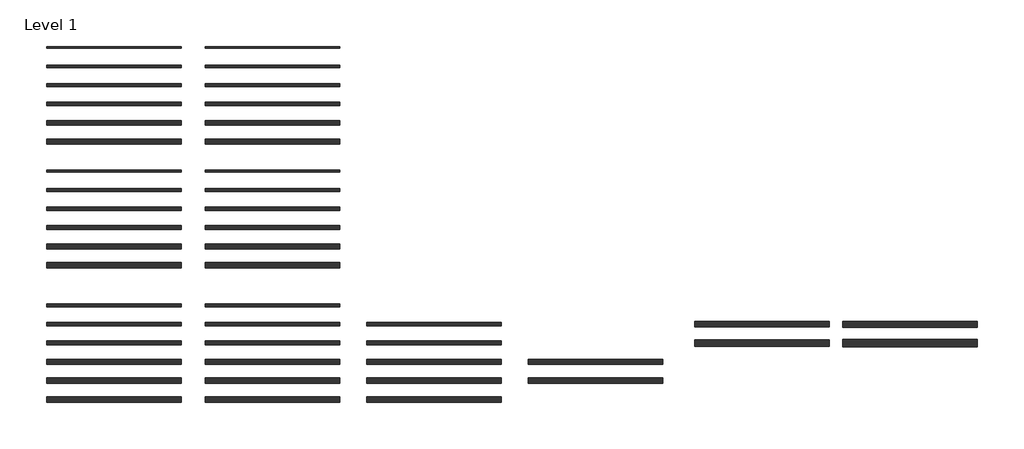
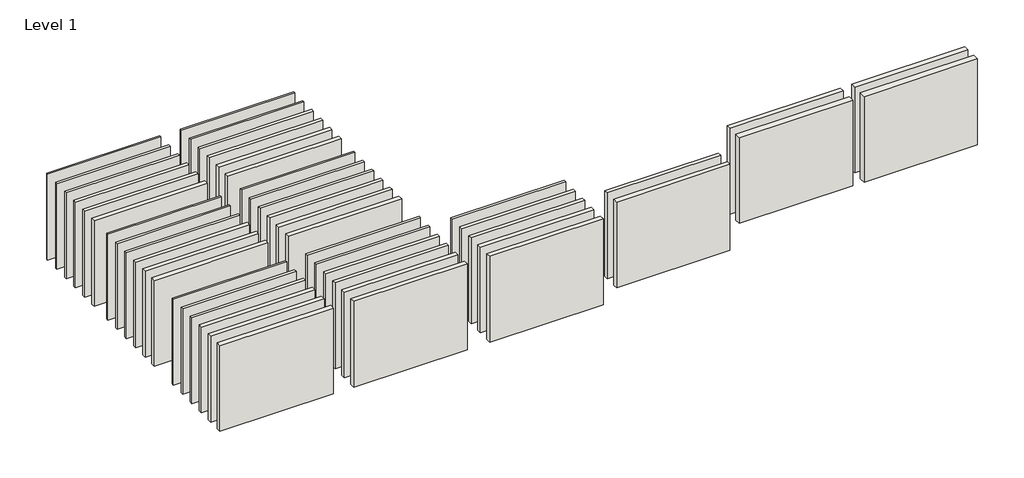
# One storey: 47 walls.
"""IFC4 building model written with IfcOpenShell, lengths in millimetres."""

import ifcopenshell
import ifcopenshell.guid

model = None  # the IFC model being written
_history = None  # IfcOwnerHistory: only IFC2X3 demands one
_inside = {}  # id of a spatial element -> (the spatial element, [elements in it])
_under = {}  # id of a project, library or spatial element -> (it, [spatial elements below it])
_declared = {}  # id of a project -> (the project, [libraries it declares])
_typed = {}  # id of a type object -> (the type object, [elements of that type])
_made_of = {}  # id of a material, layer set ... -> (it, [elements and type objects made of it])


def new_model(schema):
    """Start an empty IFC model of exactly this schema.

    Asked for "IFC4X3", IfcOpenShell would pick the latest addendum, in which some entities
    have other attributes; the version numbers below select the first issue.
    IFC2X3 requires an IfcOwnerHistory on every rooted entity: one is made here for all.
    """
    global model, _history
    if schema == "IFC4X3":
        model = ifcopenshell.file(schema_version=(4, 3, 0, 0))
    else:
        model = ifcopenshell.file(schema=schema)
    _inside.clear()
    _under.clear()
    _declared.clear()
    _typed.clear()
    _made_of.clear()
    _history = None
    if model.schema == "IFC2X3":
        org = make("IfcOrganization", Name="unknown")
        user = make(
            "IfcPersonAndOrganization",
            ThePerson=make("IfcPerson", FamilyName="unknown"),
            TheOrganization=org,
        )
        app = make(
            "IfcApplication",
            ApplicationDeveloper=org,
            Version="unknown",
            ApplicationFullName="unknown",
            ApplicationIdentifier="unknown",
        )
        _history = make(
            "IfcOwnerHistory",
            OwningUser=user,
            OwningApplication=app,
            ChangeAction="ADDED",
            CreationDate=0,
        )
    return model


def make(cls, **values):
    """One entity of the class cls with the attributes given. An attribute that is None is left unset."""
    return model.create_entity(
        cls, **{name: value for name, value in values.items() if value is not None}
    )


def rooted(cls, **values):
    """An entity with a GlobalId (a new one), such as an element, a storey or a relation."""
    return make(cls, GlobalId=ifcopenshell.guid.new(), OwnerHistory=_history, **values)


def si_unit(unit_type, name, prefix=None):
    """IfcSIUnit, for example si_unit("LENGTHUNIT", "METRE", prefix="MILLI")."""
    return make("IfcSIUnit", UnitType=unit_type, Prefix=prefix, Name=name)


def assignment(units):
    """IfcUnitAssignment: the units of a project."""
    return None if units is None else make("IfcUnitAssignment", Units=units)


def point(xyz):
    """IfcCartesianPoint."""
    return None if xyz is None else make("IfcCartesianPoint", Coordinates=xyz)


def direction(xyz):
    """IfcDirection."""
    return None if xyz is None else make("IfcDirection", DirectionRatios=xyz)


def frame(location, z_axis=None, x_axis=None):
    """IfcAxis2Placement3D, a coordinate frame: its origin and axes. An axis left out is left unset."""
    return make(
        "IfcAxis2Placement3D",
        Location=point(location),
        Axis=direction(z_axis),
        RefDirection=direction(x_axis),
    )


def origin():
    """The frame at (0, 0, 0) with its axes left unset."""
    return frame((0.0, 0.0, 0.0))


def origin_with_axes():
    """The frame at (0, 0, 0) with the z axis (0, 0, 1) and the x axis (1, 0, 0) written out."""
    return frame((0.0, 0.0, 0.0), z_axis=(0.0, 0.0, 1.0), x_axis=(1.0, 0.0, 0.0))


def place(relative_to, where):
    """IfcLocalPlacement: puts the frame where relative to a parent placement (None: the world)."""
    return make(
        "IfcLocalPlacement", PlacementRelTo=relative_to, RelativePlacement=where
    )


def context(
    kind, dimensions, precision=None, world=None, true_north=None, identifier=None
):
    """IfcGeometricRepresentationContext, for example the 3D "Model" context."""
    return make(
        "IfcGeometricRepresentationContext",
        ContextIdentifier=identifier,
        ContextType=kind,
        CoordinateSpaceDimension=dimensions,
        Precision=precision,
        WorldCoordinateSystem=world,
        TrueNorth=true_north,
    )


def project(units=None, contexts=None):
    """IfcProject with its units and contexts."""
    return rooted(
        "IfcProject",
        Name="project",
        RepresentationContexts=contexts,
        UnitsInContext=assignment(units),
    )


def spatial(cls, under=None, at=None, **own):
    """A site, building, storey or space (cls), placed at a placement, below another one or the project."""
    s = rooted(cls, ObjectPlacement=at, **own)
    if under is not None:
        _under.setdefault(under.id(), (under, []))[1].append(s)
    return s


def polyline(points):
    """IfcPolyline through the points."""
    return make("IfcPolyline", Points=[point(p) for p in points])


def outline(outer, holes=None, kind="AREA"):
    """IfcArbitraryClosedProfileDef: a profile drawn as a closed curve; with holes, ...WithVoids."""
    if holes is None:
        return make("IfcArbitraryClosedProfileDef", ProfileType=kind, OuterCurve=outer)
    return make(
        "IfcArbitraryProfileDefWithVoids",
        ProfileType=kind,
        OuterCurve=outer,
        InnerCurves=holes,
    )


def extrude(swept, where, along, depth):
    """IfcExtrudedAreaSolid: the profile swept, set in the frame where, extruded along a direction by depth."""
    return make(
        "IfcExtrudedAreaSolid",
        SweptArea=swept,
        Position=where,
        ExtrudedDirection=direction(along),
        Depth=depth,
    )


def shape(context_of_items, identifier, shape_type, items):
    """IfcShapeRepresentation: the items that make up one representation, for example the "Body"."""
    return make(
        "IfcShapeRepresentation",
        ContextOfItems=context_of_items,
        RepresentationIdentifier=identifier,
        RepresentationType=shape_type,
        Items=items,
    )


def made_of(thing, what):
    """Note that an element or type object is made of a material, layer set ...; save() writes the relation."""
    if what is not None:
        _made_of.setdefault(what.id(), (what, []))[1].append(thing)
    return thing


def element(
    cls,
    number,
    at=None,
    inside=None,
    cuts=None,
    type_object=None,
    material=None,
    context=None,
    identifier="Body",
    shape_type=None,
    held_by="IfcProductDefinitionShape",
    body=None,
    shapes=None,
    **own,
):
    """One element of the class cls, such as IfcWall. Its Tag is "e" and its number.

    at: its placement. inside: the storey or other place that contains it. cuts: it is an
    opening in that element (IfcRelVoidsElement). A single representation is given by context,
    identifier, shape_type and body (its items); several are given by shapes. held_by: the class
    of the entity that holds the representations. save() writes the other relations.
    """
    e = rooted(cls, Tag="e%d" % number, ObjectPlacement=at, **own)
    if body is not None:
        shapes = [shape(context, identifier, shape_type, body)]
    if shapes is not None:
        e.Representation = make(held_by, Representations=shapes)
    if inside is not None:
        _inside.setdefault(inside.id(), (inside, []))[1].append(e)
    if cuts is not None:
        rooted(
            "IfcRelVoidsElement", RelatingBuildingElement=cuts, RelatedOpeningElement=e
        )
    if type_object is not None:
        _typed.setdefault(type_object.id(), (type_object, []))[1].append(e)
    return made_of(e, material)


def aggregate(whole, parts):
    """IfcRelAggregates: a whole, such as a stair, and the parts it consists of."""
    return rooted("IfcRelAggregates", RelatingObject=whole, RelatedObjects=parts)


def save(model, path):
    """Write the relations noted so far, then the file.

    IfcRelAggregates (storeys below a building ...), IfcRelContainedInSpatialStructure (elements
    in a storey), IfcRelDefinesByType, IfcRelAssociatesMaterial and IfcRelDeclares: one each for
    every whole, place, type object, material and project.
    """
    for whole, parts in _under.values():
        aggregate(whole, parts)
    for where, things in _inside.values():
        rooted(
            "IfcRelContainedInSpatialStructure",
            RelatedElements=things,
            RelatingStructure=where,
        )
    for kind, things in _typed.values():
        rooted("IfcRelDefinesByType", RelatedObjects=things, RelatingType=kind)
    for what, things in _made_of.values():
        rooted("IfcRelAssociatesMaterial", RelatedObjects=things, RelatingMaterial=what)
    for by, libraries in _declared.values():
        rooted("IfcRelDeclares", RelatingContext=by, RelatedDefinitions=libraries)
    model.write(path)


model = new_model("IFC4")

# Units and contexts
model_context = context("Model", 3, world=origin())
ifc_project = project(units=[si_unit("LENGTHUNIT", "METRE", prefix="MILLI")], contexts=[model_context])

# Site, building, storey
site = spatial("IfcSite", under=ifc_project)
building = spatial("IfcBuilding", under=site)
storey = spatial("IfcBuildingStorey", under=building, Name="Level 1", Elevation=0.0)

# Walls
placement = place(None, origin())
element("IfcWall", 1, ObjectType="Knauf Danogips E MR 300 45/45 H/A M0", at=placement, inside=storey, context=model_context, shape_type="SweptSolid", body=[
    extrude(outline(polyline([(2218.7204375, 1079.3446658), (-2781.2795625, 1079.3446658), (-2781.2795625, 1149.3446658), (2218.7204375, 1149.3446658), (2218.7204375, 1079.3446658)])), origin_with_axes(), (0.0, 0.0, 1.0), 4000.0),
])
element("IfcWall", 2, ObjectType="Knauf Danogips E MR 300 70/70 H/A M0", at=placement, inside=storey, context=model_context, shape_type="SweptSolid", body=[
    extrude(outline(polyline([(2218.7204375, 366.8559755), (-2781.2795625, 366.8559755), (-2781.2795625, 461.8559755), (2218.7204375, 461.8559755), (2218.7204375, 366.8559755)])), origin_with_axes(), (0.0, 0.0, 1.0), 4000.0),
])
element("IfcWall", 3, ObjectType="Knauf Danogips E MR 300 95/95 H/A M0", at=placement, inside=storey, context=model_context, shape_type="SweptSolid", body=[
    extrude(outline(polyline([(2218.7204375, -345.6440245), (-2781.2795625, -345.6440245), (-2781.2795625, -225.6440245), (2218.7204375, -225.6440245), (2218.7204375, -345.6440245)])), origin_with_axes(), (0.0, 0.0, 1.0), 4000.0),
])
element("IfcWall", 4, ObjectType="Knauf Danogips E MR 300 120/120 H/A M0", at=placement, inside=storey, context=model_context, shape_type="SweptSolid", body=[
    extrude(outline(polyline([(2218.7204375, -1058.1440245), (-2781.2795625, -1058.1440245), (-2781.2795625, -913.1440245), (2218.7204375, -913.1440245), (2218.7204375, -1058.1440245)])), origin_with_axes(), (0.0, 0.0, 1.0), 4000.0),
])
element("IfcWall", 5, ObjectType="Knauf Danogips E MR 300 145/145 H/A M0", at=placement, inside=storey, context=model_context, shape_type="SweptSolid", body=[
    extrude(outline(polyline([(2218.7204375, -1770.6440245), (-2781.2795625, -1770.6440245), (-2781.2795625, -1600.6440245), (2218.7204375, -1600.6440245), (2218.7204375, -1770.6440245)])), origin_with_axes(), (0.0, 0.0, 1.0), 4000.0),
])
element("IfcWall", 6, ObjectType="Knauf Danogips E MR 300 160/160 H/A M0", at=placement, inside=storey, context=model_context, shape_type="SweptSolid", body=[
    extrude(outline(polyline([(2218.7204375, -2478.1440245), (-2781.2795625, -2478.1440245), (-2781.2795625, -2293.1440245), (2218.7204375, -2293.1440245), (2218.7204375, -2478.1440245)])), origin_with_axes(), (0.0, 0.0, 1.0), 4000.0),
])
element("IfcWall", 7, ObjectType="Knauf Danogips E MR 450 45/45 HH/A M0", at=placement, inside=storey, context=model_context, shape_type="SweptSolid", body=[
    extrude(outline(polyline([(2218.7204375, -3526.9053342), (-2781.2795625, -3526.9053342), (-2781.2795625, -3444.4053342), (2218.7204375, -3444.4053342), (2218.7204375, -3526.9053342)])), origin_with_axes(), (0.0, 0.0, 1.0), 4000.0),
])
element("IfcWall", 8, ObjectType="Knauf Danogips E MR 450 70/70 HH/A M0", at=placement, inside=storey, context=model_context, shape_type="SweptSolid", body=[
    extrude(outline(polyline([(2218.7204375, -4239.4053342), (-2781.2795625, -4239.4053342), (-2781.2795625, -4131.9053342), (2218.7204375, -4131.9053342), (2218.7204375, -4239.4053342)])), origin_with_axes(), (0.0, 0.0, 1.0), 4000.0),
])
element("IfcWall", 9, ObjectType="Knauf Danogips E MR 450 95/95 HH/A M0", at=placement, inside=storey, context=model_context, shape_type="SweptSolid", body=[
    extrude(outline(polyline([(2218.7204375, -4951.9053342), (-2781.2795625, -4951.9053342), (-2781.2795625, -4819.4053342), (2218.7204375, -4819.4053342), (2218.7204375, -4951.9053342)])), origin_with_axes(), (0.0, 0.0, 1.0), 4000.0),
])
element("IfcWall", 10, ObjectType="Knauf Danogips E MR 450 120/120 HH/A M0", at=placement, inside=storey, context=model_context, shape_type="SweptSolid", body=[
    extrude(outline(polyline([(2218.7204375, -5664.4053342), (-2781.2795625, -5664.4053342), (-2781.2795625, -5506.9053342), (2218.7204375, -5506.9053342), (2218.7204375, -5664.4053342)])), origin_with_axes(), (0.0, 0.0, 1.0), 4000.0),
])
element("IfcWall", 11, ObjectType="Knauf Danogips E MR 450 145/145 HH/A M0", at=placement, inside=storey, context=model_context, shape_type="SweptSolid", body=[
    extrude(outline(polyline([(2218.7204375, -6376.9053342), (-2781.2795625, -6376.9053342), (-2781.2795625, -6194.4053342), (2218.7204375, -6194.4053342), (2218.7204375, -6376.9053342)])), origin_with_axes(), (0.0, 0.0, 1.0), 4000.0),
])
element("IfcWall", 12, ObjectType="Knauf Danogips E MR 450 160/160 HH/A M0", at=placement, inside=storey, context=model_context, shape_type="SweptSolid", body=[
    extrude(outline(polyline([(2218.7204375, -7084.4053342), (-2781.2795625, -7084.4053342), (-2781.2795625, -6886.9053342), (2218.7204375, -6886.9053342), (2218.7204375, -7084.4053342)])), origin_with_axes(), (0.0, 0.0, 1.0), 4000.0),
])
element("IfcWall", 13, ObjectType="Knauf Danogips E MR 300 45/45 H/A M45", at=placement, inside=storey, context=model_context, shape_type="SweptSolid", body=[
    extrude(outline(polyline([(8118.7204375, 1079.3446658), (3118.7204375, 1079.3446658), (3118.7204375, 1149.3446658), (8118.7204375, 1149.3446658), (8118.7204375, 1079.3446658)])), origin_with_axes(), (0.0, 0.0, 1.0), 4000.0),
])
element("IfcWall", 14, ObjectType="Knauf Danogips E MR 300 70/70 H/A M45", at=placement, inside=storey, context=model_context, shape_type="SweptSolid", body=[
    extrude(outline(polyline([(8118.7204375, 366.8559755), (3118.7204375, 366.8559755), (3118.7204375, 461.8559755), (8118.7204375, 461.8559755), (8118.7204375, 366.8559755)])), origin_with_axes(), (0.0, 0.0, 1.0), 4000.0),
])
element("IfcWall", 15, ObjectType="Knauf Danogips E MR 300 95/95 H/A M45", at=placement, inside=storey, context=model_context, shape_type="SweptSolid", body=[
    extrude(outline(polyline([(8118.7204375, -345.6440245), (3118.7204375, -345.6440245), (3118.7204375, -225.6440245), (8118.7204375, -225.6440245), (8118.7204375, -345.6440245)])), origin_with_axes(), (0.0, 0.0, 1.0), 4000.0),
])
element("IfcWall", 16, ObjectType="Knauf Danogips E MR 300 120/120 H/A M45", at=placement, inside=storey, context=model_context, shape_type="SweptSolid", body=[
    extrude(outline(polyline([(8118.7204375, -1058.1440245), (3118.7204375, -1058.1440245), (3118.7204375, -913.1440245), (8118.7204375, -913.1440245), (8118.7204375, -1058.1440245)])), origin_with_axes(), (0.0, 0.0, 1.0), 4000.0),
])
element("IfcWall", 17, ObjectType="Knauf Danogips E MR 300 145/145 H/A M45", at=placement, inside=storey, context=model_context, shape_type="SweptSolid", body=[
    extrude(outline(polyline([(8118.7204375, -1770.6440245), (3118.7204375, -1770.6440245), (3118.7204375, -1600.6440245), (8118.7204375, -1600.6440245), (8118.7204375, -1770.6440245)])), origin_with_axes(), (0.0, 0.0, 1.0), 4000.0),
])
element("IfcWall", 18, ObjectType="Knauf Danogips E MR 300 160/160 H/A M45", at=placement, inside=storey, context=model_context, shape_type="SweptSolid", body=[
    extrude(outline(polyline([(8118.7204375, -2478.1440245), (3118.7204375, -2478.1440245), (3118.7204375, -2293.1440245), (8118.7204375, -2293.1440245), (8118.7204375, -2478.1440245)])), origin_with_axes(), (0.0, 0.0, 1.0), 4000.0),
])
element("IfcWall", 19, ObjectType="Knauf Danogips E MR 450 45/45 HH/A M45", at=placement, inside=storey, context=model_context, shape_type="SweptSolid", body=[
    extrude(outline(polyline([(8118.7204375, -3526.9053342), (3118.7204375, -3526.9053342), (3118.7204375, -3444.4053342), (8118.7204375, -3444.4053342), (8118.7204375, -3526.9053342)])), origin_with_axes(), (0.0, 0.0, 1.0), 4000.0),
])
element("IfcWall", 20, ObjectType="Knauf Danogips E MR 450 70/70 HH/A M45", at=placement, inside=storey, context=model_context, shape_type="SweptSolid", body=[
    extrude(outline(polyline([(8118.7204375, -4239.4053342), (3118.7204375, -4239.4053342), (3118.7204375, -4131.9053342), (8118.7204375, -4131.9053342), (8118.7204375, -4239.4053342)])), origin_with_axes(), (0.0, 0.0, 1.0), 4000.0),
])
element("IfcWall", 21, ObjectType="Knauf Danogips E MR 450 95/95 HH/A M45", at=placement, inside=storey, context=model_context, shape_type="SweptSolid", body=[
    extrude(outline(polyline([(8118.7204375, -4951.9053342), (3118.7204375, -4951.9053342), (3118.7204375, -4819.4053342), (8118.7204375, -4819.4053342), (8118.7204375, -4951.9053342)])), origin_with_axes(), (0.0, 0.0, 1.0), 4000.0),
])
element("IfcWall", 22, ObjectType="Knauf Danogips E MR 450 120/120 HH/A M45", at=placement, inside=storey, context=model_context, shape_type="SweptSolid", body=[
    extrude(outline(polyline([(8118.7204375, -5664.4053342), (3118.7204375, -5664.4053342), (3118.7204375, -5506.9053342), (8118.7204375, -5506.9053342), (8118.7204375, -5664.4053342)])), origin_with_axes(), (0.0, 0.0, 1.0), 4000.0),
])
element("IfcWall", 23, ObjectType="Knauf Danogips E MR 450 145/145 HH/A M45", at=placement, inside=storey, context=model_context, shape_type="SweptSolid", body=[
    extrude(outline(polyline([(8118.7204375, -6376.9053342), (3118.7204375, -6376.9053342), (3118.7204375, -6194.4053342), (8118.7204375, -6194.4053342), (8118.7204375, -6376.9053342)])), origin_with_axes(), (0.0, 0.0, 1.0), 4000.0),
])
element("IfcWall", 24, ObjectType="Knauf Danogips E MR 450 160/160 HH/A M45", at=placement, inside=storey, context=model_context, shape_type="SweptSolid", body=[
    extrude(outline(polyline([(8118.7204375, -7084.4053342), (3118.7204375, -7084.4053342), (3118.7204375, -6886.9053342), (8118.7204375, -6886.9053342), (8118.7204375, -7084.4053342)])), origin_with_axes(), (0.0, 0.0, 1.0), 4000.0),
])
element("IfcWall", 25, ObjectType="Knauf Danogips E MR 450 45/45 HH/AA M0", at=placement, inside=storey, context=model_context, shape_type="SweptSolid", body=[
    extrude(outline(polyline([(2218.7204375, -8533.1553342), (-2781.2795625, -8533.1553342), (-2781.2795625, -8438.1553342), (2218.7204375, -8438.1553342), (2218.7204375, -8533.1553342)])), origin_with_axes(), (0.0, 0.0, 1.0), 4000.0),
])
element("IfcWall", 26, ObjectType="Knauf Danogips E MR 450 70/70 HH/AA M0", at=placement, inside=storey, context=model_context, shape_type="SweptSolid", body=[
    extrude(outline(polyline([(2218.7204375, -9245.6553342), (-2781.2795625, -9245.6553342), (-2781.2795625, -9125.6553342), (2218.7204375, -9125.6553342), (2218.7204375, -9245.6553342)])), origin_with_axes(), (0.0, 0.0, 1.0), 4000.0),
])
element("IfcWall", 27, ObjectType="Knauf Danogips E MR 450 95/95 HH/AA M0", at=placement, inside=storey, context=model_context, shape_type="SweptSolid", body=[
    extrude(outline(polyline([(2218.7204375, -9958.1553342), (-2781.2795625, -9958.1553342), (-2781.2795625, -9813.1553342), (2218.7204375, -9813.1553342), (2218.7204375, -9958.1553342)])), origin_with_axes(), (0.0, 0.0, 1.0), 4000.0),
])
element("IfcWall", 28, ObjectType="Knauf Danogips E MR 450 120/120 HH/AA M0", at=placement, inside=storey, context=model_context, shape_type="SweptSolid", body=[
    extrude(outline(polyline([(2218.7204375, -10670.6553342), (-2781.2795625, -10670.6553342), (-2781.2795625, -10500.6553342), (2218.7204375, -10500.6553342), (2218.7204375, -10670.6553342)])), origin_with_axes(), (0.0, 0.0, 1.0), 4000.0),
])
element("IfcWall", 29, ObjectType="Knauf Danogips E MR 450 145/145 HH/AA M0", at=placement, inside=storey, context=model_context, shape_type="SweptSolid", body=[
    extrude(outline(polyline([(2218.7204375, -11383.1553342), (-2781.2795625, -11383.1553342), (-2781.2795625, -11188.1553342), (2218.7204375, -11188.1553342), (2218.7204375, -11383.1553342)])), origin_with_axes(), (0.0, 0.0, 1.0), 4000.0),
])
element("IfcWall", 30, ObjectType="Knauf Danogips E MR 450 160/160 HH/AA M0", at=placement, inside=storey, context=model_context, shape_type="SweptSolid", body=[
    extrude(outline(polyline([(2218.7204375, -12090.6553342), (-2781.2795625, -12090.6553342), (-2781.2795625, -11880.6553342), (2218.7204375, -11880.6553342), (2218.7204375, -12090.6553342)])), origin_with_axes(), (0.0, 0.0, 1.0), 4000.0),
])
element("IfcWall", 31, ObjectType="Knauf Danogips E MR 450 45/45 HH/AA M45", at=placement, inside=storey, context=model_context, shape_type="SweptSolid", body=[
    extrude(outline(polyline([(8118.7204375, -8533.1553342), (3118.7204375, -8533.1553342), (3118.7204375, -8438.1553342), (8118.7204375, -8438.1553342), (8118.7204375, -8533.1553342)])), origin_with_axes(), (0.0, 0.0, 1.0), 4000.0),
])
element("IfcWall", 32, ObjectType="Knauf Danogips E MR 450 70/70 HH/AA M45", at=placement, inside=storey, context=model_context, shape_type="SweptSolid", body=[
    extrude(outline(polyline([(8118.7204375, -9245.6553342), (3118.7204375, -9245.6553342), (3118.7204375, -9125.6553342), (8118.7204375, -9125.6553342), (8118.7204375, -9245.6553342)])), origin_with_axes(), (0.0, 0.0, 1.0), 4000.0),
])
element("IfcWall", 33, ObjectType="Knauf Danogips E MR 450 95/95 HH/AA M45", at=placement, inside=storey, context=model_context, shape_type="SweptSolid", body=[
    extrude(outline(polyline([(8118.7204375, -9958.1553342), (3118.7204375, -9958.1553342), (3118.7204375, -9813.1553342), (8118.7204375, -9813.1553342), (8118.7204375, -9958.1553342)])), origin_with_axes(), (0.0, 0.0, 1.0), 4000.0),
])
element("IfcWall", 34, ObjectType="Knauf Danogips E MR 450 120/120 HH/AA M45", at=placement, inside=storey, context=model_context, shape_type="SweptSolid", body=[
    extrude(outline(polyline([(8118.7204375, -10670.6553342), (3118.7204375, -10670.6553342), (3118.7204375, -10500.6553342), (8118.7204375, -10500.6553342), (8118.7204375, -10670.6553342)])), origin_with_axes(), (0.0, 0.0, 1.0), 4000.0),
])
element("IfcWall", 35, ObjectType="Knauf Danogips E MR 450 145/145 HH/AA M45", at=placement, inside=storey, context=model_context, shape_type="SweptSolid", body=[
    extrude(outline(polyline([(8118.7204375, -11383.1553342), (3118.7204375, -11383.1553342), (3118.7204375, -11188.1553342), (8118.7204375, -11188.1553342), (8118.7204375, -11383.1553342)])), origin_with_axes(), (0.0, 0.0, 1.0), 4000.0),
])
element("IfcWall", 36, ObjectType="Knauf Danogips E MR 450 160/160 HH/AA M45", at=placement, inside=storey, context=model_context, shape_type="SweptSolid", body=[
    extrude(outline(polyline([(8118.7204375, -12090.6553342), (3118.7204375, -12090.6553342), (3118.7204375, -11880.6553342), (8118.7204375, -11880.6553342), (8118.7204375, -12090.6553342)])), origin_with_axes(), (0.0, 0.0, 1.0), 4000.0),
])
element("IfcWall", 37, ObjectType="Knauf Danogips E MR 450 70/70 HH/AA M70", at=placement, inside=storey, context=model_context, shape_type="SweptSolid", body=[
    extrude(outline(polyline([(14118.7204375, -9245.6553342), (9118.7204375, -9245.6553342), (9118.7204375, -9125.6553342), (14118.7204375, -9125.6553342), (14118.7204375, -9245.6553342)])), origin_with_axes(), (0.0, 0.0, 1.0), 4000.0),
])
element("IfcWall", 38, ObjectType="Knauf Danogips E MR 450 95/95 HH/AA M95", at=placement, inside=storey, context=model_context, shape_type="SweptSolid", body=[
    extrude(outline(polyline([(14118.7204375, -9958.1553342), (9118.7204375, -9958.1553342), (9118.7204375, -9813.1553342), (14118.7204375, -9813.1553342), (14118.7204375, -9958.1553342)])), origin_with_axes(), (0.0, 0.0, 1.0), 4000.0),
])
element("IfcWall", 39, ObjectType="Knauf Danogips E MR 450 120/120 HH/AA M95", at=placement, inside=storey, context=model_context, shape_type="SweptSolid", body=[
    extrude(outline(polyline([(14118.7204375, -10670.6553342), (9118.7204375, -10670.6553342), (9118.7204375, -10500.6553342), (14118.7204375, -10500.6553342), (14118.7204375, -10670.6553342)])), origin_with_axes(), (0.0, 0.0, 1.0), 4000.0),
])
element("IfcWall", 40, ObjectType="Knauf Danogips E MR 450 145/145 HH/AA M95", at=placement, inside=storey, context=model_context, shape_type="SweptSolid", body=[
    extrude(outline(polyline([(14118.7204375, -11383.1553342), (9118.7204375, -11383.1553342), (9118.7204375, -11188.1553342), (14118.7204375, -11188.1553342), (14118.7204375, -11383.1553342)])), origin_with_axes(), (0.0, 0.0, 1.0), 4000.0),
])
element("IfcWall", 41, ObjectType="Knauf Danogips E MR 450 160/160 HH/AA M95", at=placement, inside=storey, context=model_context, shape_type="SweptSolid", body=[
    extrude(outline(polyline([(14118.7204375, -12090.6553342), (9118.7204375, -12090.6553342), (9118.7204375, -11880.6553342), (14118.7204375, -11880.6553342), (14118.7204375, -12090.6553342)])), origin_with_axes(), (0.0, 0.0, 1.0), 4000.0),
])
element("IfcWall", 42, ObjectType="Knauf Danogips Z MR 450 120/70 HH/AA M90", at=placement, inside=storey, context=model_context, shape_type="SweptSolid", body=[
    extrude(outline(polyline([(20118.7204375, -10670.6553342), (15118.7204375, -10670.6553342), (15118.7204375, -10500.6553342), (20118.7204375, -10500.6553342), (20118.7204375, -10670.6553342)])), origin_with_axes(), (0.0, 0.0, 1.0), 4000.0),
])
element("IfcWall", 43, ObjectType="Knauf Danogips Z MR 450 145/95 HH/AA M90", at=placement, inside=storey, context=model_context, shape_type="SweptSolid", body=[
    extrude(outline(polyline([(20118.7204375, -11383.1553342), (15118.7204375, -11383.1553342), (15118.7204375, -11188.1553342), (20118.7204375, -11188.1553342), (20118.7204375, -11383.1553342)])), origin_with_axes(), (0.0, 0.0, 1.0), 4000.0),
])
element("IfcWall", 44, ObjectType="Knauf Danogips D MR 450 70/70 HH/AA M140", at=placement, inside=storey, context=model_context, shape_type="SweptSolid", body=[
    extrude(outline(polyline([(26318.7204375, -9288.1553342), (21318.7204375, -9288.1553342), (21318.7204375, -9083.1553342), (26318.7204375, -9083.1553342), (26318.7204375, -9288.1553342)])), origin_with_axes(), (0.0, 0.0, 1.0), 4000.0),
])
element("IfcWall", 45, ObjectType="Knauf Danogips D MR 450 95/95 HH/AA M190", at=placement, inside=storey, context=model_context, shape_type="SweptSolid", body=[
    extrude(outline(polyline([(26318.7204375, -10013.1553342), (21318.7204375, -10013.1553342), (21318.7204375, -9758.1553342), (26318.7204375, -9758.1553342), (26318.7204375, -10013.1553342)])), origin_with_axes(), (0.0, 0.0, 1.0), 4000.0),
])
element("IfcWall", 46, ObjectType="Knauf Danogips D MR 450 70/70 HHH/AAA M140", at=placement, inside=storey, context=model_context, shape_type="SweptSolid", body=[
    extrude(outline(polyline([(31818.7204375, -9300.6553342), (26818.7204375, -9300.6553342), (26818.7204375, -9070.6553342), (31818.7204375, -9070.6553342), (31818.7204375, -9300.6553342)])), origin_with_axes(), (0.0, 0.0, 1.0), 4000.0),
])
element("IfcWall", 47, ObjectType="Knauf Danogips D MR 450 95/95 HHH/AAA M190", at=placement, inside=storey, context=model_context, shape_type="SweptSolid", body=[
    extrude(outline(polyline([(31818.7204375, -10025.6553342), (26818.7204375, -10025.6553342), (26818.7204375, -9745.6553342), (31818.7204375, -9745.6553342), (31818.7204375, -10025.6553342)])), origin_with_axes(), (0.0, 0.0, 1.0), 4000.0),
])

save(model, "model.ifc")
